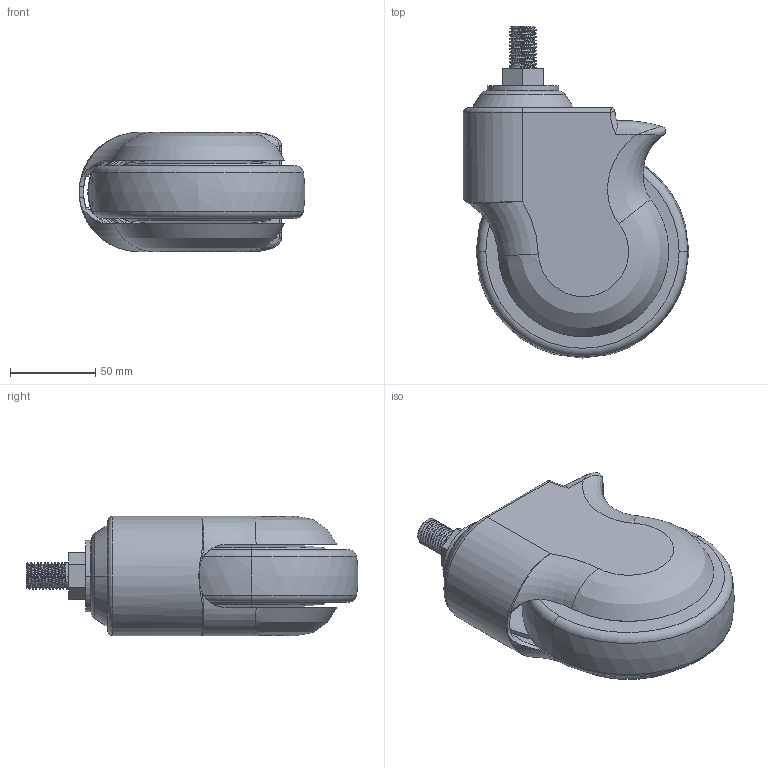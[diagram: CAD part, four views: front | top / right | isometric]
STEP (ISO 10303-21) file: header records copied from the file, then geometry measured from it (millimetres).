
FILE_DESCRIPTION((''),'2;1');
FILE_NAME('E5735-57_ASM','2022-11-01T',('lenovo'),(''),'PRO/ENGINEER BY PARAMETRIC TECHNOLOGY CORPORATION, 2010280','PRO/ENGINEER BY PARAMETRIC TECHNOLOGY CORPORATION, 2010280','');
FILE_SCHEMA(('CONFIG_CONTROL_DESIGN'));
Length unit declared in the file: millimetre
Products named in the file (8): 1; 575-11; 570-03A; 570-08; E575-23; 575-77; E574-6301; E5735-57_ASM
Assembly tree (7 placements, depth 2):
  E5735-57_ASM
    1
    575-11
    570-03A
    570-08
    E575-23
    575-77
    E574-6301
Bounding box: 132.43 x 194.91 x 70 mm (x, y, z)
Volume: 543837.7 mm3; surface area: 165101.5 mm2
Topology: 7 solids, 7 shells, 408 faces, 992 edges, 617 vertices
Faces by surface type: cylinder 159, plane 106, torus 70, bspline 48, cone 23, sphere 2
Entity records: 19147 total; most frequent: CARTESIAN_POINT 9636, ORIENTED_EDGE 1980, DIRECTION 1951, EDGE_CURVE 990, AXIS2_PLACEMENT_3D 801, VERTEX_POINT 617, EDGE_LOOP 441, CIRCLE 426
